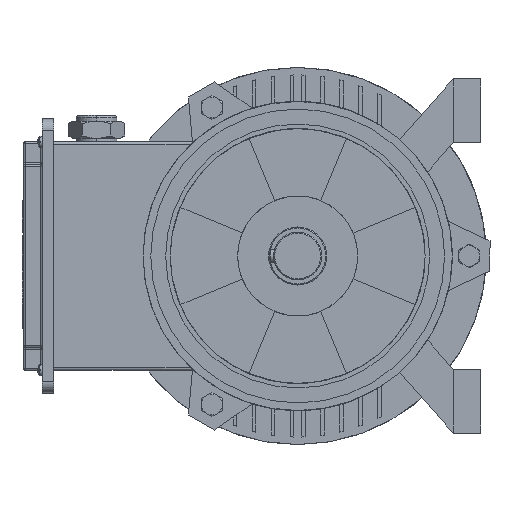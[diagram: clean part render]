
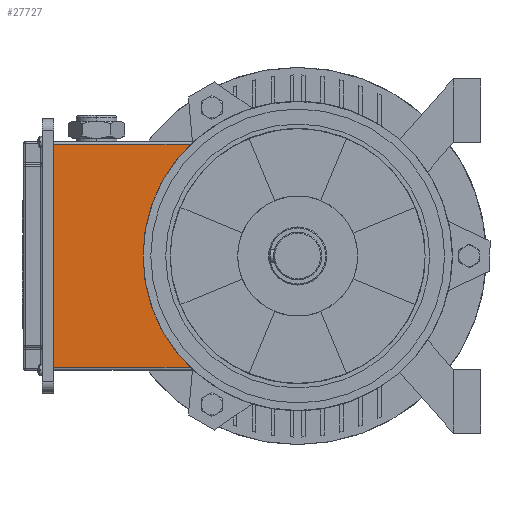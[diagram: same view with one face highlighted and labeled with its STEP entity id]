
A CAD part, left-side view. The second image highlights one B-rep face of the part: STEP entity #27727.
In plain terms, the highlighted planar face has unit normal (-1, 0, 0).
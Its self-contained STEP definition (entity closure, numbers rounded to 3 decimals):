
#154 = EDGE_CURVE ( 'NONE', #1003, #34253, #29012, .T. ) ;
#685 = EDGE_LOOP ( 'NONE', ( #12015, #10771, #27388, #15372 ) ) ;
#1003 = VERTEX_POINT ( 'NONE', #5143 ) ;
#1076 = DIRECTION ( 'NONE',  ( 0., 0., 1. ) ) ;
#1345 = VECTOR ( 'NONE', #14549, 1000. ) ;
#3934 = VERTEX_POINT ( 'NONE', #16403 ) ;
#4455 = DIRECTION ( 'NONE',  ( -1., 0., 0. ) ) ;
#5030 = DIRECTION ( 'NONE',  ( -1., 0., 0. ) ) ;
#5143 = CARTESIAN_POINT ( 'NONE',  ( -265.303, 104.86, -98. ) ) ;
#5604 = LINE ( 'NONE', #25445, #16909 ) ;
#6618 = EDGE_CURVE ( 'NONE', #3934, #14868, #5604, .T. ) ;
#7522 = PLANE ( 'NONE',  #21161 ) ;
#9363 = LINE ( 'NONE', #38499, #1345 ) ;
#10771 = ORIENTED_EDGE ( 'NONE', *, *, #6618, .T. ) ;
#12015 = ORIENTED_EDGE ( 'NONE', *, *, #15665, .F. ) ;
#14549 = DIRECTION ( 'NONE',  ( 0., 0., -1. ) ) ;
#14868 = VERTEX_POINT ( 'NONE', #22833 ) ;
#15372 = ORIENTED_EDGE ( 'NONE', *, *, #154, .F. ) ;
#15665 = EDGE_CURVE ( 'NONE', #3934, #1003, #15971, .T. ) ;
#15971 = CIRCLE ( 'NONE', #31570, 135.3 ) ;
#15983 = CARTESIAN_POINT ( 'NONE',  ( -265.303, 225.175, -98. ) ) ;
#16403 = CARTESIAN_POINT ( 'NONE',  ( -265.303, 104.86, 98. ) ) ;
#16459 = DIRECTION ( 'NONE',  ( 0., 1., 0. ) ) ;
#16909 = VECTOR ( 'NONE', #16459, 1000. ) ;
#20728 = EDGE_CURVE ( 'NONE', #14868, #34253, #9363, .T. ) ;
#21161 = AXIS2_PLACEMENT_3D ( 'NONE', #36939, #4455, #1076 ) ;
#22833 = CARTESIAN_POINT ( 'NONE',  ( -265.303, 225.175, 98. ) ) ;
#23056 = CARTESIAN_POINT ( 'NONE',  ( -265.303, 11.575, 0. ) ) ;
#25445 = CARTESIAN_POINT ( 'NONE',  ( -265.303, 123.02, 98. ) ) ;
#26046 = DIRECTION ( 'NONE',  ( 0., 0., 1. ) ) ;
#27132 = CARTESIAN_POINT ( 'NONE',  ( -265.303, 123.02, -98. ) ) ;
#27151 = VECTOR ( 'NONE', #30741, 1000. ) ;
#27353 = FACE_OUTER_BOUND ( 'NONE', #685, .T. ) ;
#27388 = ORIENTED_EDGE ( 'NONE', *, *, #20728, .T. ) ;
#27727 = ADVANCED_FACE ( 'NONE', ( #27353 ), #7522, .T. ) ;
#29012 = LINE ( 'NONE', #27132, #27151 ) ;
#30741 = DIRECTION ( 'NONE',  ( 0., 1., 0. ) ) ;
#31570 = AXIS2_PLACEMENT_3D ( 'NONE', #23056, #5030, #26046 ) ;
#34253 = VERTEX_POINT ( 'NONE', #15983 ) ;
#36939 = CARTESIAN_POINT ( 'NONE',  ( -265.303, 123.02, -3.5 ) ) ;
#38499 = CARTESIAN_POINT ( 'NONE',  ( -265.303, 225.175, -3.5 ) ) ;
